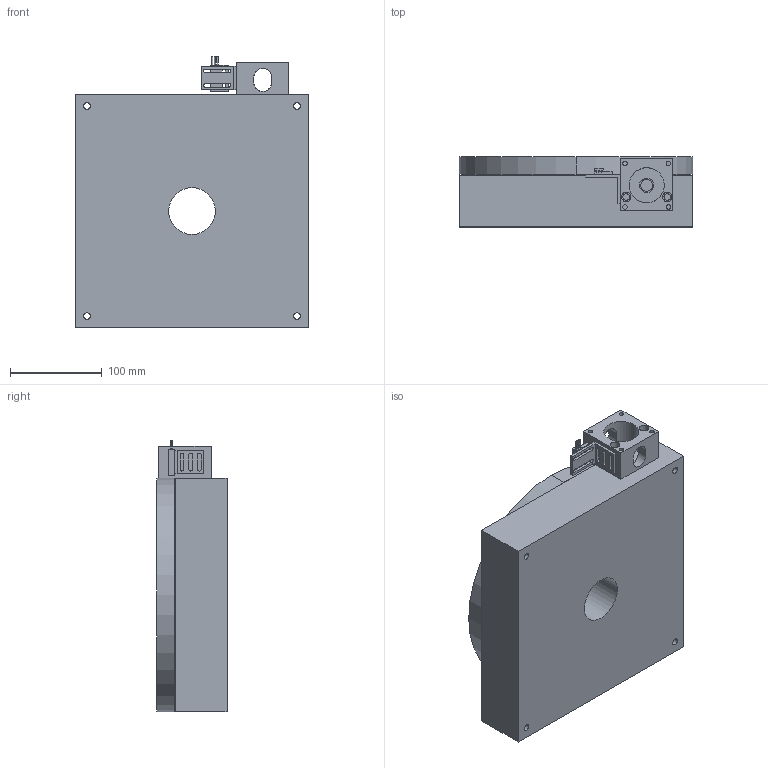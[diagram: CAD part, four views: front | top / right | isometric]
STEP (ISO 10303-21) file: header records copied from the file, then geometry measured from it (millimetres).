
FILE_DESCRIPTION((''),'2;1');
FILE_NAME('E210-ROTARY_ASM','2005-02-18T',('BF20108'),(''),'PRO/ENGINEER BY PARAMETRIC TECHNOLOGY CORPORATION, 2004400','PRO/ENGINEER BY PARAMETRIC TECHNOLOGY CORPORATION, 2004400','');
FILE_SCHEMA(('CONFIG_CONTROL_DESIGN'));
Length unit declared in the file: inch
Products named in the file (7): E10RO-BASE; E10RO-TOP; E-0176-01; 000-4457-SW-BRKT; 003-1145-SWITCH; ROTARY-TBL-HOME-SW_ASM; E210-ROTARY_ASM
Assembly tree (6 placements, depth 3):
  E210-ROTARY_ASM
    E10RO-BASE
    E10RO-TOP
    E-0176-01
    ROTARY-TBL-HOME-SW_ASM
      000-4457-SW-BRKT
      003-1145-SWITCH
Bounding box: 254 x 76.25 x 295.49 mm (x, y, z)
Volume: 4498885.4 mm3; surface area: 346308.2 mm2
Topology: 5 solids, 13 shells, 159 faces, 418 edges, 278 vertices
Faces by surface type: cylinder 100, plane 59
Entity records: 5374 total; most frequent: DIRECTION 962, CARTESIAN_POINT 948, ORIENTED_EDGE 804, EDGE_CURVE 418, AXIS2_PLACEMENT_3D 374, VERTEX_POINT 278, EDGE_LOOP 228, VECTOR 214
